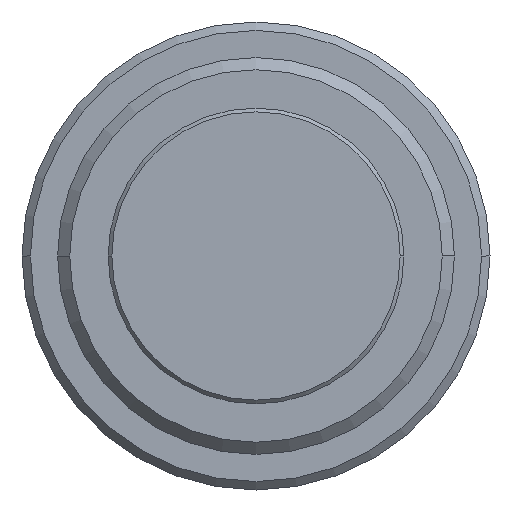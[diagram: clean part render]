
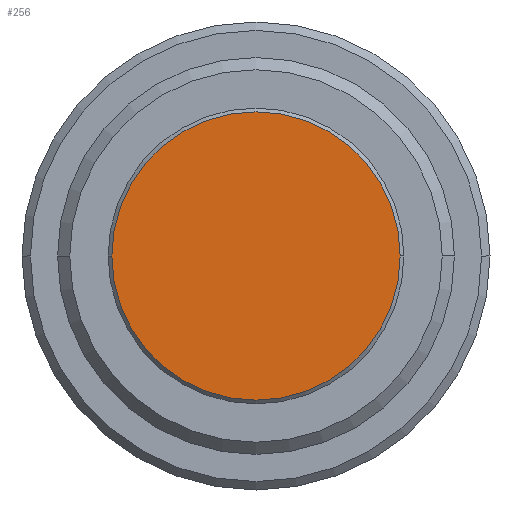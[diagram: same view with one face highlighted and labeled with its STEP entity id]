
A CAD part, front view. The second image highlights one B-rep face of the part: STEP entity #256.
In plain terms, the highlighted planar face has unit normal (0, -1, 0) as drawn and (1, 0, 0) by its records, which use the part's own axes.
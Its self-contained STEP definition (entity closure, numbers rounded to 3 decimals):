
#122=PLANE('',#1646);
#256=ADVANCED_FACE('',(#378),#122,.T.);
#378=FACE_OUTER_BOUND('',#468,.T.);
#468=EDGE_LOOP('',(#892,#893));
#892=ORIENTED_EDGE('',*,*,#1358,.T.);
#893=ORIENTED_EDGE('',*,*,#1250,.T.);
#1112=VERTEX_POINT('',#2242);
#1113=VERTEX_POINT('',#2243);
#1250=EDGE_CURVE('',#1112,#1113,#1462,.T.);
#1358=EDGE_CURVE('',#1113,#1112,#1501,.T.);
#1462=CIRCLE('',#1566,15.4);
#1501=CIRCLE('',#1645,15.4);
#1566=AXIS2_PLACEMENT_3D('',#2241,#1773,#1774);
#1645=AXIS2_PLACEMENT_3D('',#2778,#1968,#1969);
#1646=AXIS2_PLACEMENT_3D('',#2779,#1970,#1971);
#1773=DIRECTION('',(1.,0.,0.));
#1774=DIRECTION('',(0.,0.,-1.));
#1968=DIRECTION('',(1.,0.,0.));
#1969=DIRECTION('',(0.,0.,-1.));
#1970=DIRECTION('',(1.,0.,0.));
#1971=DIRECTION('',(0.,0.,1.));
#2241=CARTESIAN_POINT('',(71.8,0.,0.));
#2242=CARTESIAN_POINT('',(71.8,0.,-15.4));
#2243=CARTESIAN_POINT('',(71.8,0.,15.4));
#2778=CARTESIAN_POINT('',(71.8,0.,0.));
#2779=CARTESIAN_POINT('',(71.8,0.,0.));
